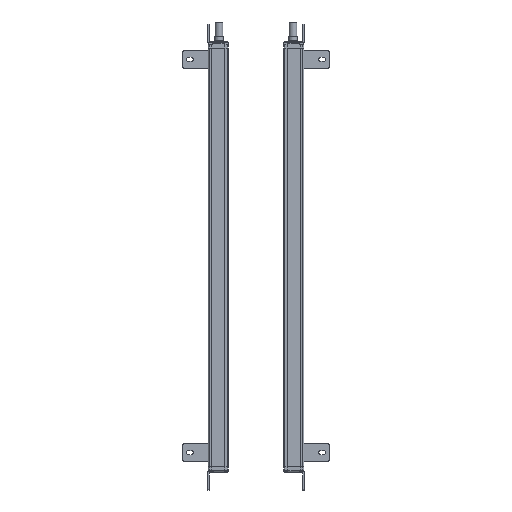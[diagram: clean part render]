
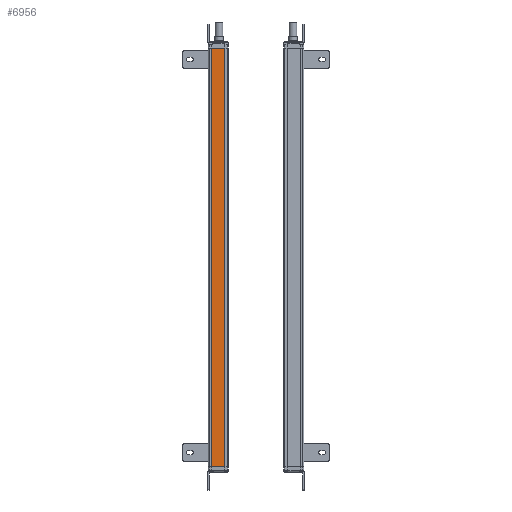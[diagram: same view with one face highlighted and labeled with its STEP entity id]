
A CAD part, left-side view. The second image highlights one B-rep face of the part: STEP entity #6956.
In plain terms, the highlighted planar face has unit normal (-1, 0, 0).
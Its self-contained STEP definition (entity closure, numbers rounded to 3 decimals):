
#953=FACE_OUTER_BOUND('',#9034,.T.);
#2188=LINE('',#33710,#4326);
#2290=LINE('',#34050,#4428);
#2291=LINE('',#34052,#4429);
#2292=LINE('',#34054,#4430);
#4326=VECTOR('',#26897,1.);
#4428=VECTOR('',#27185,1.);
#4429=VECTOR('',#27188,1.);
#4430=VECTOR('',#27189,1.);
#6178=PLANE('',#23723);
#6956=ADVANCED_FACE('',(#953),#6178,.T.);
#9034=EDGE_LOOP('',(#11681,#11682,#11683,#11684));
#11681=ORIENTED_EDGE('',*,*,#19828,.F.);
#11682=ORIENTED_EDGE('',*,*,#19829,.T.);
#11683=ORIENTED_EDGE('',*,*,#19830,.T.);
#11684=ORIENTED_EDGE('',*,*,#19658,.F.);
#17203=VERTEX_POINT('',#33709);
#17204=VERTEX_POINT('',#33711);
#17348=VERTEX_POINT('',#34049);
#17349=VERTEX_POINT('',#34053);
#19658=EDGE_CURVE('',#17203,#17204,#2188,.T.);
#19828=EDGE_CURVE('',#17348,#17203,#2290,.T.);
#19829=EDGE_CURVE('',#17348,#17349,#2291,.T.);
#19830=EDGE_CURVE('',#17349,#17204,#2292,.T.);
#23723=AXIS2_PLACEMENT_3D('',#34055,#27190,#27191);
#26897=DIRECTION('',(0.,-1.,0.));
#27185=DIRECTION('',(0.,0.,1.));
#27188=DIRECTION('',(0.,-1.,0.));
#27189=DIRECTION('',(0.,0.,1.));
#27190=DIRECTION('',(-1.,0.,0.));
#27191=DIRECTION('',(0.,-1.,0.));
#33709=CARTESIAN_POINT('',(233.846,104.141,31.645));
#33710=CARTESIAN_POINT('',(233.846,81.141,31.645));
#33711=CARTESIAN_POINT('',(233.846,81.141,31.645));
#34049=CARTESIAN_POINT('',(233.846,104.141,-703.355));
#34050=CARTESIAN_POINT('',(233.846,104.141,-155.355));
#34052=CARTESIAN_POINT('',(233.846,81.141,-703.355));
#34053=CARTESIAN_POINT('',(233.846,81.141,-703.355));
#34054=CARTESIAN_POINT('',(233.846,81.141,-155.355));
#34055=CARTESIAN_POINT('',(233.846,81.141,-50.355));
